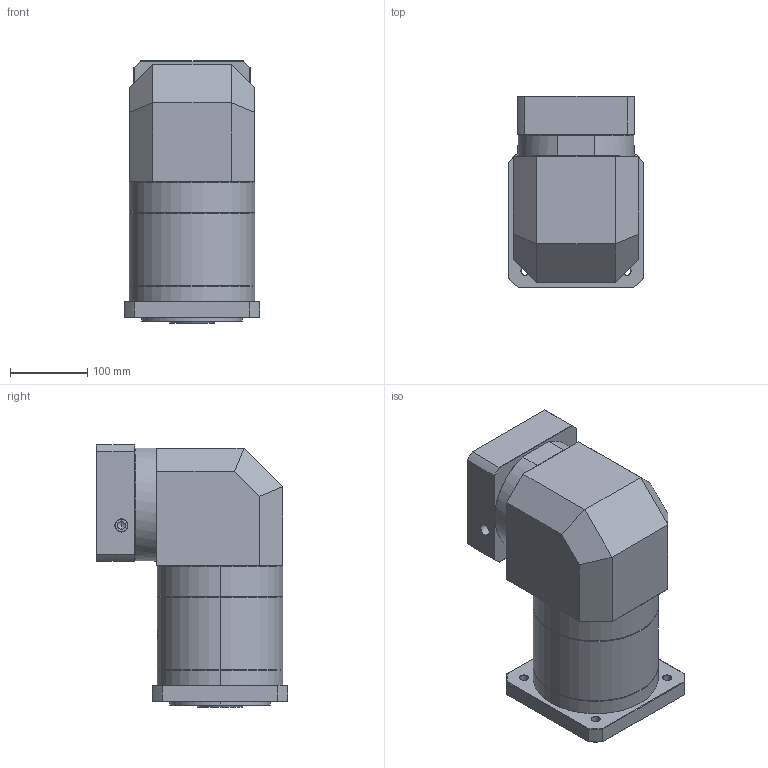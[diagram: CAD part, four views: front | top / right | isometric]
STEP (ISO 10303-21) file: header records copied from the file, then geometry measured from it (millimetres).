
FILE_DESCRIPTION (( 'STEP AP214' ), '1' );
FILE_NAME ('ZFR160A-K35-L3-P2-28-130-174-M10.step', '2023-09-03T09:03:16', ( '' ), ( '' ), 'SwSTEP 2.0', 'SolidWorks 2016', '' );
FILE_SCHEMA (( 'AUTOMOTIVE_DESIGN' ));
Length unit declared in the file: millimetre
Products named in the file (1): ZFR160A-K35-L3-P2-28-130-174-M10
Bounding box: 175 x 247.5 x 338.7 mm (x, y, z)
Volume: 8117889 mm3; surface area: 475715.8 mm2
Topology: 6 solids, 6 shells, 2150 faces, 5680 edges, 3636 vertices
Faces by surface type: plane 1041, bspline 407, cylinder 379, cone 303, torus 20
Entity records: 120097 total; most frequent: CARTESIAN_POINT 48404, ORIENTED_EDGE 11304, DIRECTION 8194, EDGE_CURVE 5652, VERTEX_POINT 3636, LINE 3036, VECTOR 3036, AXIS2_PLACEMENT_3D 2579
